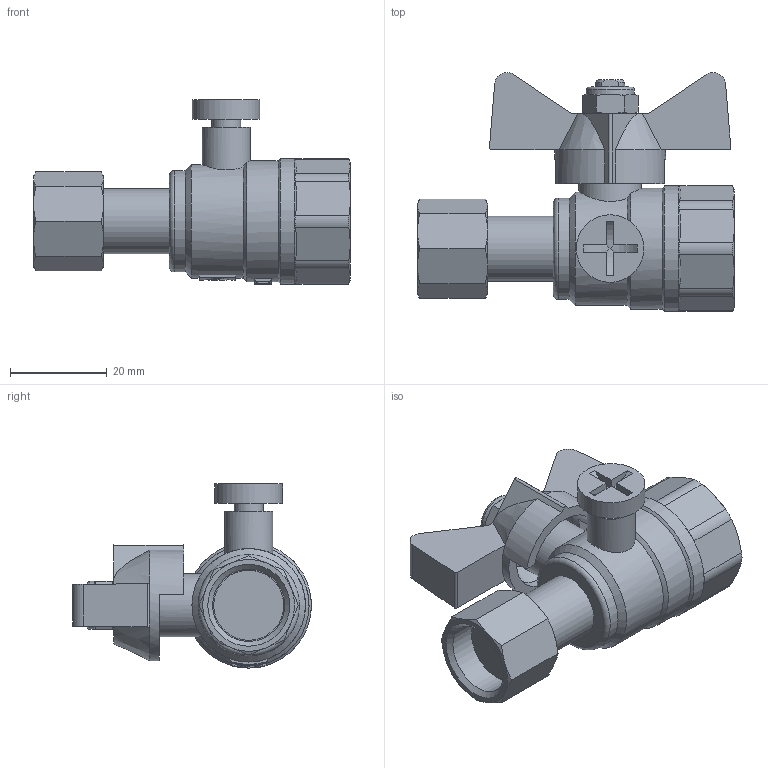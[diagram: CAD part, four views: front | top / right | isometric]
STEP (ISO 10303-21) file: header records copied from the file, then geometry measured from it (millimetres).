
FILE_DESCRIPTION(('STEP AP203'), '1');
FILE_NAME('VT.807.N.0403', '', ('UNSPECIFIED'), ('UNSPECIFIED'), 'C3D Converter', 'C3D Toolkit', '');
FILE_SCHEMA(('CONFIG_CONTROL_DESIGN'));
Length unit declared in the file: millimetre
Products named in the file (1): ВР.491816.040.000 СБ
Bounding box: 65.65 x 49.5 x 38.14 mm (x, y, z)
Volume: 27668.1 mm3; surface area: 12217.8 mm2
Topology: 2 solids, 6 shells, 270 faces, 666 edges, 426 vertices
Faces by surface type: plane 120, cylinder 56, cone 50, extrusion 40, torus 4
Full cylindrical faces by diameter (mm): 6 x1, 8 x1, 10 x2, 13 x1, 13.4 x2, 13.5 x1, 14 x1, 14.5 x1, 14.95 x1, 18.5 x1, 18.632 x1, 21 x1, 23.5 x1, 25 x1, 26 x1
Entity records: 11976 total; most frequent: CARTESIAN_POINT 6044, ORIENTED_EDGE 1268, DIRECTION 1057, EDGE_CURVE 634, VERTEX_POINT 426, AXIS2_PLACEMENT_3D 392, EDGE_LOOP 322, FACE_BOUND 278
